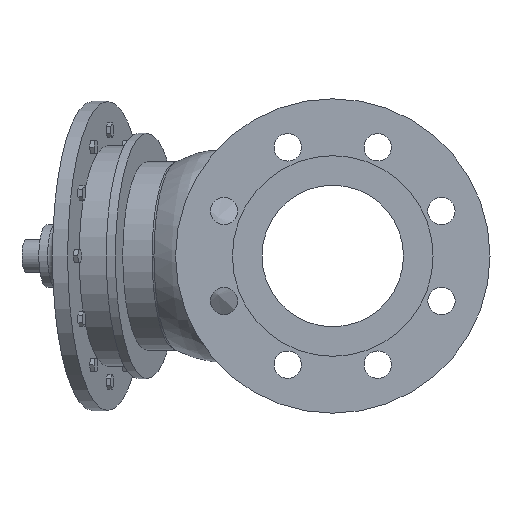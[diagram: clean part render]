
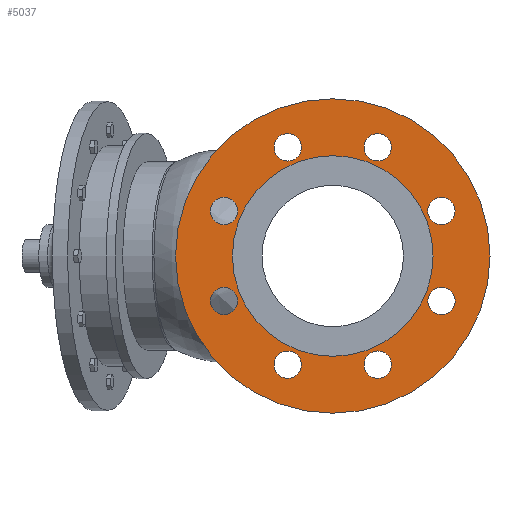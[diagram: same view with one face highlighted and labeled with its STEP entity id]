
A CAD part, left-side view. The second image highlights one B-rep face of the part: STEP entity #5037.
In plain terms, the highlighted planar face has unit normal (-1, 0, 0).
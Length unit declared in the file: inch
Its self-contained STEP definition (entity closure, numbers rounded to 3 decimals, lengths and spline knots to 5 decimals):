
#246=PLANE('',#5407);
#293=FACE_BOUND('',#927,.T.);
#294=FACE_BOUND('',#928,.T.);
#295=FACE_BOUND('',#929,.T.);
#296=FACE_BOUND('',#930,.T.);
#297=FACE_BOUND('',#931,.T.);
#298=FACE_BOUND('',#932,.T.);
#299=FACE_BOUND('',#933,.T.);
#300=FACE_BOUND('',#934,.T.);
#301=FACE_BOUND('',#935,.T.);
#629=FACE_OUTER_BOUND('',#926,.T.);
#926=EDGE_LOOP('',(#4425,#4426));
#927=EDGE_LOOP('',(#4427));
#928=EDGE_LOOP('',(#4428));
#929=EDGE_LOOP('',(#4429));
#930=EDGE_LOOP('',(#4430));
#931=EDGE_LOOP('',(#4431));
#932=EDGE_LOOP('',(#4432));
#933=EDGE_LOOP('',(#4433));
#934=EDGE_LOOP('',(#4434));
#935=EDGE_LOOP('',(#4435,#4436));
#1967=CIRCLE('',#5066,0.435);
#1969=CIRCLE('',#5069,0.435);
#1971=CIRCLE('',#5072,0.435);
#1973=CIRCLE('',#5075,0.435);
#1975=CIRCLE('',#5078,0.435);
#1977=CIRCLE('',#5081,0.435);
#1979=CIRCLE('',#5084,0.435);
#1981=CIRCLE('',#5087,0.435);
#2069=CIRCLE('',#5405,3.19);
#2070=CIRCLE('',#5406,3.19);
#2071=CIRCLE('',#5408,5.);
#2072=CIRCLE('',#5409,5.);
#2083=VERTEX_POINT('',#6692);
#2085=VERTEX_POINT('',#6698);
#2087=VERTEX_POINT('',#6704);
#2089=VERTEX_POINT('',#6710);
#2091=VERTEX_POINT('',#6716);
#2093=VERTEX_POINT('',#6722);
#2095=VERTEX_POINT('',#6728);
#2097=VERTEX_POINT('',#6734);
#2516=VERTEX_POINT('',#9130);
#2517=VERTEX_POINT('',#9131);
#2518=VERTEX_POINT('',#9136);
#2519=VERTEX_POINT('',#9137);
#2530=EDGE_CURVE('',#2083,#2083,#1967,.T.);
#2533=EDGE_CURVE('',#2085,#2085,#1969,.T.);
#2536=EDGE_CURVE('',#2087,#2087,#1971,.T.);
#2539=EDGE_CURVE('',#2089,#2089,#1973,.T.);
#2542=EDGE_CURVE('',#2091,#2091,#1975,.T.);
#2545=EDGE_CURVE('',#2093,#2093,#1977,.T.);
#2548=EDGE_CURVE('',#2095,#2095,#1979,.T.);
#2551=EDGE_CURVE('',#2097,#2097,#1981,.T.);
#3167=EDGE_CURVE('',#2516,#2517,#2069,.T.);
#3168=EDGE_CURVE('',#2517,#2516,#2070,.T.);
#3170=EDGE_CURVE('',#2518,#2519,#2071,.T.);
#3171=EDGE_CURVE('',#2519,#2518,#2072,.T.);
#4425=ORIENTED_EDGE('',*,*,#3170,.F.);
#4426=ORIENTED_EDGE('',*,*,#3171,.F.);
#4427=ORIENTED_EDGE('',*,*,#2530,.T.);
#4428=ORIENTED_EDGE('',*,*,#2533,.T.);
#4429=ORIENTED_EDGE('',*,*,#2536,.T.);
#4430=ORIENTED_EDGE('',*,*,#2539,.T.);
#4431=ORIENTED_EDGE('',*,*,#2542,.T.);
#4432=ORIENTED_EDGE('',*,*,#2545,.T.);
#4433=ORIENTED_EDGE('',*,*,#2548,.T.);
#4434=ORIENTED_EDGE('',*,*,#2551,.T.);
#4435=ORIENTED_EDGE('',*,*,#3167,.T.);
#4436=ORIENTED_EDGE('',*,*,#3168,.T.);
#5037=ADVANCED_FACE('',(#629,#293,#294,#295,#296,#297,#298,#299,#300,#301),
#246,.T.);
#5066=AXIS2_PLACEMENT_3D('',#6693,#5444,#5445);
#5069=AXIS2_PLACEMENT_3D('',#6699,#5451,#5452);
#5072=AXIS2_PLACEMENT_3D('',#6705,#5458,#5459);
#5075=AXIS2_PLACEMENT_3D('',#6711,#5465,#5466);
#5078=AXIS2_PLACEMENT_3D('',#6717,#5472,#5473);
#5081=AXIS2_PLACEMENT_3D('',#6723,#5479,#5480);
#5084=AXIS2_PLACEMENT_3D('',#6729,#5486,#5487);
#5087=AXIS2_PLACEMENT_3D('',#6735,#5493,#5494);
#5405=AXIS2_PLACEMENT_3D('',#9132,#6616,#6617);
#5406=AXIS2_PLACEMENT_3D('',#9133,#6618,#6619);
#5407=AXIS2_PLACEMENT_3D('',#9135,#6621,#6622);
#5408=AXIS2_PLACEMENT_3D('',#9138,#6623,#6624);
#5409=AXIS2_PLACEMENT_3D('',#9139,#6625,#6626);
#5444=DIRECTION('center_axis',(1.,0.,0.));
#5445=DIRECTION('ref_axis',(0.,0.707,0.707));
#5451=DIRECTION('center_axis',(1.,0.,0.));
#5452=DIRECTION('ref_axis',(0.,1.,0.));
#5458=DIRECTION('center_axis',(1.,0.,0.));
#5459=DIRECTION('ref_axis',(0.,0.707,-0.707));
#5465=DIRECTION('center_axis',(1.,0.,0.));
#5466=DIRECTION('ref_axis',(0.,0.,-1.));
#5472=DIRECTION('center_axis',(1.,0.,0.));
#5473=DIRECTION('ref_axis',(0.,-0.707,-0.707));
#5479=DIRECTION('center_axis',(1.,0.,0.));
#5480=DIRECTION('ref_axis',(0.,-1.,0.));
#5486=DIRECTION('center_axis',(1.,0.,0.));
#5487=DIRECTION('ref_axis',(0.,-0.707,0.707));
#5493=DIRECTION('center_axis',(1.,0.,0.));
#5494=DIRECTION('ref_axis',(0.,0.,1.));
#6616=DIRECTION('center_axis',(1.,0.,0.));
#6617=DIRECTION('ref_axis',(0.,0.,-1.));
#6618=DIRECTION('center_axis',(1.,0.,0.));
#6619=DIRECTION('ref_axis',(0.,0.,-1.));
#6621=DIRECTION('center_axis',(-1.,0.,0.));
#6622=DIRECTION('ref_axis',(0.,0.,1.));
#6623=DIRECTION('center_axis',(1.,0.,0.));
#6624=DIRECTION('ref_axis',(0.,0.,-1.));
#6625=DIRECTION('center_axis',(1.,0.,0.));
#6626=DIRECTION('ref_axis',(0.,0.,-1.));
#6692=CARTESIAN_POINT('',(-6.515,1.12364,-3.7629));
#6693=CARTESIAN_POINT('Origin',(-6.515,1.43124,-3.45531));
#6698=CARTESIAN_POINT('',(-6.515,-1.86624,-3.45531));
#6699=CARTESIAN_POINT('Origin',(-6.515,-1.43124,-3.45531));
#6704=CARTESIAN_POINT('',(-6.515,-3.7629,-1.12364));
#6705=CARTESIAN_POINT('Origin',(-6.515,-3.45531,-1.43124));
#6710=CARTESIAN_POINT('',(-6.515,-3.45531,1.86624));
#6711=CARTESIAN_POINT('Origin',(-6.515,-3.45531,1.43124));
#6716=CARTESIAN_POINT('',(-6.515,-1.12364,3.7629));
#6717=CARTESIAN_POINT('Origin',(-6.515,-1.43124,3.45531));
#6722=CARTESIAN_POINT('',(-6.515,1.86624,3.45531));
#6723=CARTESIAN_POINT('Origin',(-6.515,1.43124,3.45531));
#6728=CARTESIAN_POINT('',(-6.515,3.7629,1.12364));
#6729=CARTESIAN_POINT('Origin',(-6.515,3.45531,1.43124));
#6734=CARTESIAN_POINT('',(-6.515,3.45531,-1.86624));
#6735=CARTESIAN_POINT('Origin',(-6.515,3.45531,-1.43124));
#9130=CARTESIAN_POINT('',(-6.515,3.19,0.));
#9131=CARTESIAN_POINT('',(-6.515,-3.19,0.));
#9132=CARTESIAN_POINT('Origin',(-6.515,0.,0.));
#9133=CARTESIAN_POINT('Origin',(-6.515,0.,0.));
#9135=CARTESIAN_POINT('Origin',(-6.515,5.,0.));
#9136=CARTESIAN_POINT('',(-6.515,5.,0.));
#9137=CARTESIAN_POINT('',(-6.515,-5.,0.));
#9138=CARTESIAN_POINT('Origin',(-6.515,0.,0.));
#9139=CARTESIAN_POINT('Origin',(-6.515,0.,0.));
